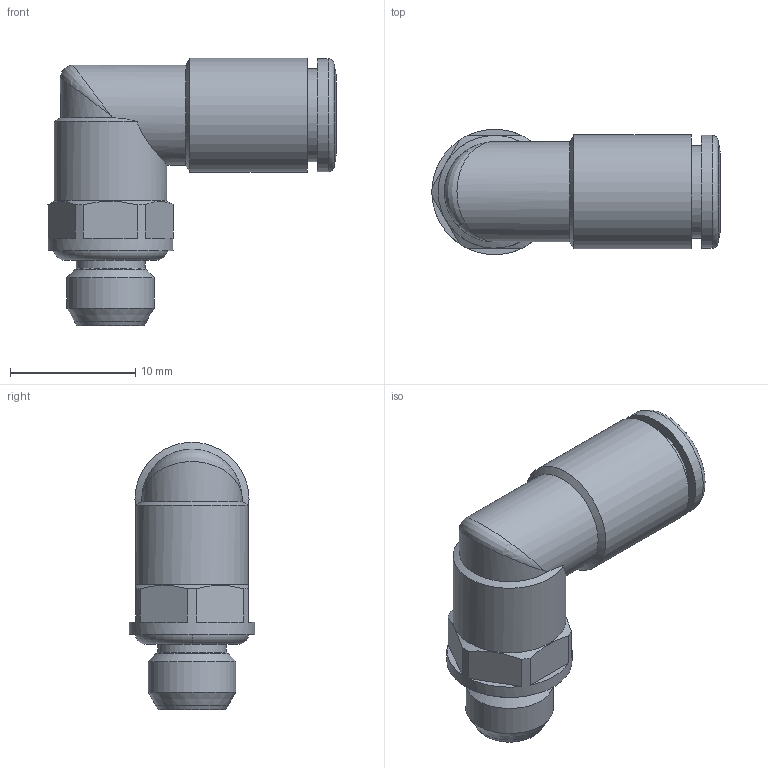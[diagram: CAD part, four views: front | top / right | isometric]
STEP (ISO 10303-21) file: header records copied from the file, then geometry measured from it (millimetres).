
FILE_DESCRIPTION(('Bauteilbeschreibung','HiCAD-Model','HiCAD-STEP-TRANSLATION','Bauteilbeschreibung'),'2;1');
FILE_NAME('B:/ABGLEICH/ZEICHNUNGEN/STEP FÜR INTERNET/STEP/IPSO 022/202216_IPSO_022_4_M7.STP','2012-02-03T11:54:29+00:00',('Konstrukteur'),('Konstrukteur Firma GmbH'),' HiCAD neXt 2008, Step 3.1.1401.2J ','HiCAD neXt 2008','confidential');
FILE_SCHEMA(('AUTOMOTIVE_DESIGN { 1 2 10303 214 0 1 1 1 }'));
Length unit declared in the file: millimetre
Products named in the file (7): A02216_IPSO_022_4_M7; OR 5_28X1_78; A14604_N2; A146040N2; DIN 13_M7; DR4_1_NEU; R202200_N2
Assembly tree (6 placements, depth 3):
  A02216_IPSO_022_4_M7
    OR 5_28X1_78
    A14604_N2
    A146040N2
      DIN 13_M7
    DR4_1_NEU
    R202200_N2
Bounding box: 23 x 10 x 21.35 mm (x, y, z)
Volume: 1363.2 mm3; surface area: 2524.3 mm2
Topology: 5 solids, 5 shells, 78 faces, 182 edges, 113 vertices
Faces by surface type: plane 25, cylinder 24, cone 21, torus 7, bspline 1
Full cylindrical faces by diameter (mm): 3.5 x1, 4.1 x2, 5.5 x1, 5.773 x2, 6 x1, 6.4 x1, 6.8 x2, 7 x1, 7.3 x1, 7.4 x1, 7.6 x1, 7.85 x1, 7.9 x1, 8 x1, 9 x2, 9.1 x1, 10 x1
Entity records: 3625 total; most frequent: CARTESIAN_POINT 1414, DIRECTION 358, ORIENTED_EDGE 240, AXIS2_PLACEMENT_3D 169, EDGE_LOOP 132, EDGE_CURVE 120, COLOUR_RGB 105, PRESENTATION_STYLE_ASSIGNMENT 105
